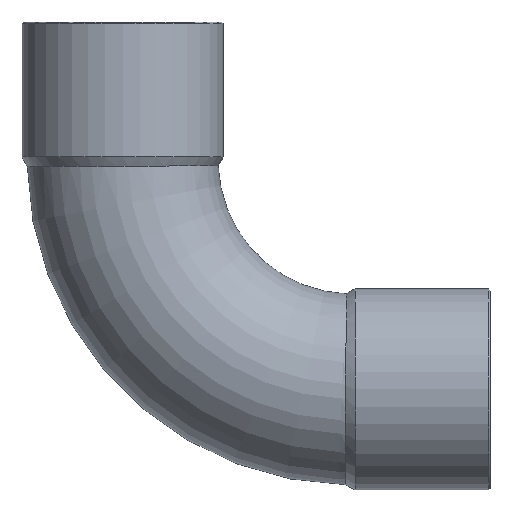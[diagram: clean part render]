
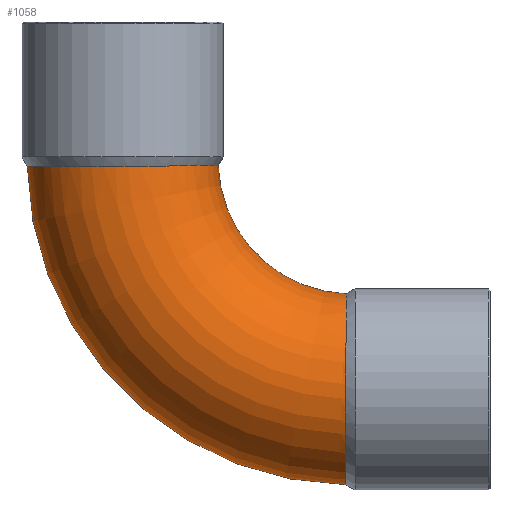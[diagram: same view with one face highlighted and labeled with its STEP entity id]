
A CAD part, front view. The second image highlights one B-rep face of the part: STEP entity #1058.
In plain terms, the highlighted toroidal (fillet/blend) face has major radius 48 mm and minor radius 20 mm.
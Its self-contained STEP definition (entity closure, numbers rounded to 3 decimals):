
#49=CARTESIAN_POINT('',(-45.954,0.,-1.219));
#50=VERTEX_POINT('',#49);
#51=CARTESIAN_POINT('',(20.816,0.,-67.989));
#52=VERTEX_POINT('',#51);
#53=CARTESIAN_POINT('',(22.035,0.,0.0));
#54=DIRECTION('',(0.0,-1.0,0.0));
#55=DIRECTION('',(0.0,0.0,-1.0));
#56=AXIS2_PLACEMENT_3D('',#53,#54,#55);
#57=CIRCLE('',#56,68.0);
#58=EDGE_CURVE('',#50,#52,#57,.T.);
#60=CARTESIAN_POINT('',(-5.941,0.,-1.158));
#61=VERTEX_POINT('',#60);
#85=CARTESIAN_POINT('',(20.877,0.,-27.976));
#86=VERTEX_POINT('',#85);
#87=CARTESIAN_POINT('',(22.035,0.,0.0));
#88=DIRECTION('',(0.0,1.0,0.0));
#89=DIRECTION('',(0.0,0.0,-1.0));
#90=AXIS2_PLACEMENT_3D('',#87,#88,#89);
#91=CIRCLE('',#90,28.0);
#92=EDGE_CURVE('',#86,#61,#91,.T.);
#224=CARTESIAN_POINT('',(-5.941,0.,-1.158));
#225=CARTESIAN_POINT('',(-5.941,-0.174,-1.158));
#226=CARTESIAN_POINT('',(-5.943,-0.348,-1.158));
#227=CARTESIAN_POINT('',(-6.016,-3.125,-1.159));
#228=CARTESIAN_POINT('',(-6.592,-5.69,-1.161));
#229=CARTESIAN_POINT('',(-8.695,-10.455,-1.167));
#230=CARTESIAN_POINT('',(-10.203,-12.61,-1.171));
#231=CARTESIAN_POINT('',(-13.96,-16.222,-1.18));
#232=CARTESIAN_POINT('',(-16.174,-17.643,-1.185));
#233=CARTESIAN_POINT('',(-21.021,-19.558,-1.193));
#234=CARTESIAN_POINT('',(-23.609,-20.033,-1.197));
#235=CARTESIAN_POINT('',(-28.819,-19.964,-1.204));
#236=CARTESIAN_POINT('',(-31.392,-19.421,-1.207));
#237=CARTESIAN_POINT('',(-36.186,-17.38,-1.211));
#238=CARTESIAN_POINT('',(-38.36,-15.901,-1.213));
#239=CARTESIAN_POINT('',(-42.018,-12.194,-1.216));
#240=CARTESIAN_POINT('',(-43.468,-10.001,-1.217));
#241=CARTESIAN_POINT('',(-45.445,-5.183,-1.219));
#242=CARTESIAN_POINT('',(-45.954,-2.604,-1.219));
#243=CARTESIAN_POINT('',(-45.954,0.,-1.219));
#244=B_SPLINE_CURVE_WITH_KNOTS('',3,(#224,#225,#226,#227,#228,#229,#230,#231,#232,#233,#234,#235,#236,#237,#238,#239,#240,#241,#242,#243),.UNSPECIFIED.,.F.,.U.,(4,2,2,2,2,2,2,2,2,4),(-6.304,-6.252,-5.47,-4.689,-3.907,-3.125,-2.344,-1.562,-0.781,0.0),.UNSPECIFIED.);
#245=EDGE_CURVE('',#61,#50,#244,.T.);
#1025=CARTESIAN_POINT('',(22.035,0.,0.0));
#1026=DIRECTION('',(0.0,-1.0,0.0));
#1027=DIRECTION('',(0.0,0.0,-1.0));
#1028=AXIS2_PLACEMENT_3D('',#1025,#1026,#1027);
#1029=TOROIDAL_SURFACE('',#1028,48.0,20.0);
#1030=ORIENTED_EDGE('',*,*,#58,.T.);
#1031=CARTESIAN_POINT('',(20.816,0.,-67.989));
#1032=CARTESIAN_POINT('',(20.816,-1.474,-67.989));
#1033=CARTESIAN_POINT('',(20.816,-2.944,-67.826));
#1034=CARTESIAN_POINT('',(20.817,-5.821,-67.18));
#1035=CARTESIAN_POINT('',(20.817,-7.22,-66.699));
#1036=CARTESIAN_POINT('',(20.818,-10.907,-64.954));
#1037=CARTESIAN_POINT('',(20.819,-13.021,-63.391));
#1038=CARTESIAN_POINT('',(20.823,-16.531,-59.542));
#1039=CARTESIAN_POINT('',(20.825,-17.894,-57.293));
#1040=CARTESIAN_POINT('',(20.83,-19.681,-52.398));
#1041=CARTESIAN_POINT('',(20.833,-20.087,-49.799));
#1042=CARTESIAN_POINT('',(20.84,-19.882,-44.591));
#1043=CARTESIAN_POINT('',(20.844,-19.271,-42.032));
#1044=CARTESIAN_POINT('',(20.852,-17.104,-37.293));
#1045=CARTESIAN_POINT('',(20.857,-15.568,-35.157));
#1046=CARTESIAN_POINT('',(20.866,-11.765,-31.597));
#1047=CARTESIAN_POINT('',(20.87,-9.536,-30.205));
#1048=CARTESIAN_POINT('',(20.875,-4.832,-28.418));
#1049=CARTESIAN_POINT('',(20.877,-2.425,-27.976));
#1050=CARTESIAN_POINT('',(20.877,0.,-27.976));
#1051=B_SPLINE_CURVE_WITH_KNOTS('',3,(#1031,#1032,#1033,#1034,#1035,#1036,#1037,#1038,#1039,#1040,#1041,#1042,#1043,#1044,#1045,#1046,#1047,#1048,#1049,#1050),.UNSPECIFIED.,.F.,.U.,(4,2,2,2,2,2,2,2,2,4),(-12.606,-12.164,-11.721,-10.94,-10.159,-9.377,-8.595,-7.813,-7.032,-6.304),.UNSPECIFIED.);
#1052=EDGE_CURVE('',#52,#86,#1051,.T.);
#1053=ORIENTED_EDGE('',*,*,#1052,.T.);
#1054=ORIENTED_EDGE('',*,*,#92,.T.);
#1055=ORIENTED_EDGE('',*,*,#245,.T.);
#1056=EDGE_LOOP('',(#1030,#1053,#1054,#1055));
#1057=FACE_OUTER_BOUND('',#1056,.T.);
#1058=ADVANCED_FACE('',(#1057),#1029,.T.);
